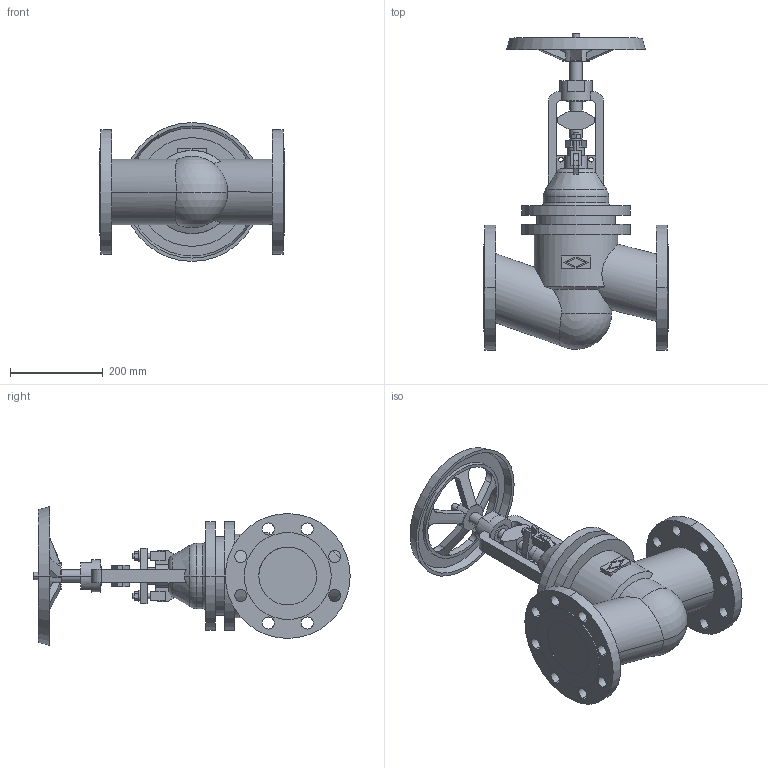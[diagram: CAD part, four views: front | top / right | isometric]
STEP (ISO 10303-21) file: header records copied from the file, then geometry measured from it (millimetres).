
FILE_DESCRIPTION(('OneSpaceDesigner STEP Export'),'2;1');
FILE_NAME('c000003766.stp','2009-06-16T11:01:34',(''),(''),'OneSpace Designer STEP processor for AP214 (Solid Model)','OneSpace Modeling 15.50B 03-Nov-2007 (C) CoCreate Software GmbH','');
FILE_SCHEMA(('AUTOMOTIVE_DESIGN { 1 0 10303 214 1 1 1 1 }'));
Length unit declared in the file: millimetre
Products named in the file (1): 1
Bounding box: 400 x 684 x 300 mm (x, y, z)
Volume: 15441449.1 mm3; surface area: 879853 mm2
Topology: 1 solids, 1 shells, 306 faces, 808 edges, 527 vertices
Faces by surface type: plane 149, cylinder 125, cone 22, torus 8, sphere 2
Entity records: 11860 total; most frequent: CARTESIAN_POINT 2289, ORIENTED_EDGE 1612, DIRECTION 1295, EDGE_CURVE 806, VERTEX_POINT 527, AXIS2_PLACEMENT_3D 438, VECTOR 419, LINE 419
